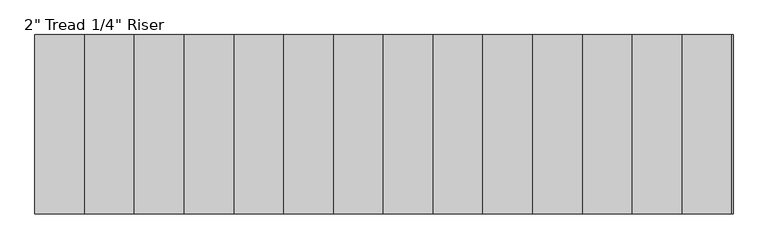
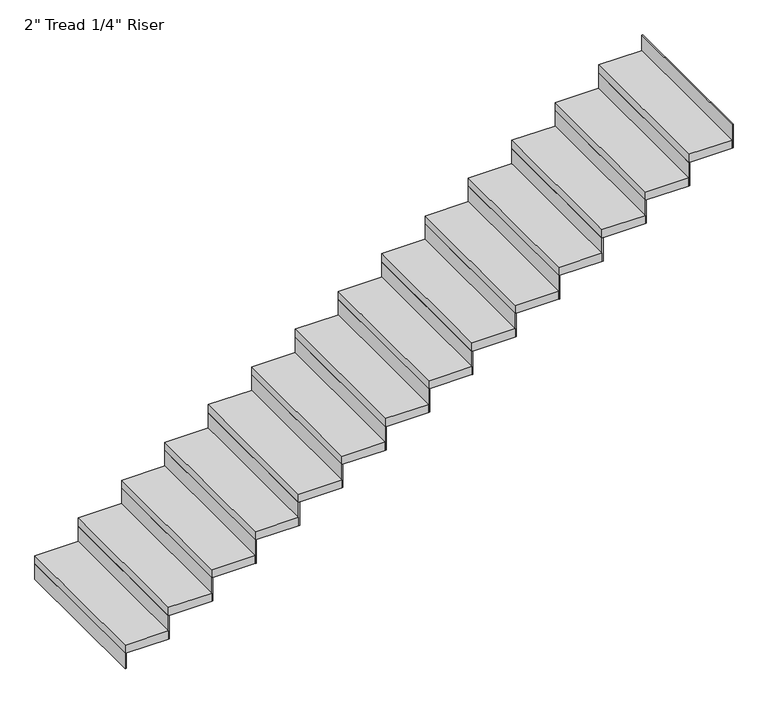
"""IFC4 building model written with IfcOpenShell, lengths in millimetres: stair flight geometry."""

from ifc_helpers import new_model, si_unit, frame, origin, origin_with_axes, place, context, project, spatial, polyline, outline, extrude, source, transform, mapped, element, save


def stair_flight_bfdabed0(model_context):
    return source(origin(), model_context, "Body", "SweptSolid", [
        extrude(outline(polyline([(12648.6660021, 21385.3361774), (12642.3160021, 21385.3361774), (12642.3160021, 22299.7361774), (12648.6660021, 22299.7361774), (12648.6660021, 21385.3361774)])), origin_with_axes(), (0.0, 0.0, 1.0), 94.3428571),
        extrude(outline(polyline([(12896.3160021, 22299.7361774), (12896.3160021, 21385.3361774), (12642.3160021, 21385.3361774), (12642.3160021, 22299.7361774), (12896.3160021, 22299.7361774)])), frame((0.0, 0.0, 94.3428571), z_axis=(0.0, 0.0, 1.0), x_axis=(1.0, 0.0, 0.0)), (0.0, 0.0, 1.0), 50.8),
        extrude(outline(polyline([(12902.6660021, 21385.3361774), (12896.3160021, 21385.3361774), (12896.3160021, 22299.7361774), (12902.6660021, 22299.7361774), (12902.6660021, 21385.3361774)])), frame((0.0, 0.0, 94.3428571), z_axis=(0.0, 0.0, 1.0), x_axis=(1.0, 0.0, 0.0)), (0.0, 0.0, 1.0), 145.1428571),
        extrude(outline(polyline([(13150.3160021, 22299.7361774), (13150.3160021, 21385.3361774), (12896.3160021, 21385.3361774), (12896.3160021, 22299.7361774), (13150.3160021, 22299.7361774)])), frame((0.0, 0.0, 239.4857143), z_axis=(0.0, 0.0, 1.0), x_axis=(1.0, 0.0, 0.0)), (0.0, 0.0, 1.0), 50.8),
        extrude(outline(polyline([(13156.6660021, 21385.3361774), (13150.3160021, 21385.3361774), (13150.3160021, 22299.7361774), (13156.6660021, 22299.7361774), (13156.6660021, 21385.3361774)])), frame((0.0, 0.0, 239.4857143), z_axis=(0.0, 0.0, 1.0), x_axis=(1.0, 0.0, 0.0)), (0.0, 0.0, 1.0), 145.1428571),
        extrude(outline(polyline([(13404.3160021, 22299.7361774), (13404.3160021, 21385.3361774), (13150.3160021, 21385.3361774), (13150.3160021, 22299.7361774), (13404.3160021, 22299.7361774)])), frame((0.0, 0.0, 384.6285714), z_axis=(0.0, 0.0, 1.0), x_axis=(1.0, 0.0, 0.0)), (0.0, 0.0, 1.0), 50.8),
        extrude(outline(polyline([(13410.6660021, 21385.3361774), (13404.3160021, 21385.3361774), (13404.3160021, 22299.7361774), (13410.6660021, 22299.7361774), (13410.6660021, 21385.3361774)])), frame((0.0, 0.0, 384.6285714), z_axis=(0.0, 0.0, 1.0), x_axis=(1.0, 0.0, 0.0)), (0.0, 0.0, 1.0), 145.1428571),
        extrude(outline(polyline([(13658.3160021, 22299.7361774), (13658.3160021, 21385.3361774), (13404.3160021, 21385.3361774), (13404.3160021, 22299.7361774), (13658.3160021, 22299.7361774)])), frame((0.0, 0.0, 529.7714286), z_axis=(0.0, 0.0, 1.0), x_axis=(1.0, 0.0, 0.0)), (0.0, 0.0, 1.0), 50.8),
        extrude(outline(polyline([(13664.6660021, 21385.3361774), (13658.3160021, 21385.3361774), (13658.3160021, 22299.7361774), (13664.6660021, 22299.7361774), (13664.6660021, 21385.3361774)])), frame((0.0, 0.0, 529.7714286), z_axis=(0.0, 0.0, 1.0), x_axis=(1.0, 0.0, 0.0)), (0.0, 0.0, 1.0), 145.1428571),
        extrude(outline(polyline([(13912.3160021, 22299.7361774), (13912.3160021, 21385.3361774), (13658.3160021, 21385.3361774), (13658.3160021, 22299.7361774), (13912.3160021, 22299.7361774)])), frame((0.0, 0.0, 674.9142857), z_axis=(0.0, 0.0, 1.0), x_axis=(1.0, 0.0, 0.0)), (0.0, 0.0, 1.0), 50.8),
        extrude(outline(polyline([(13918.6660021, 21385.3361774), (13912.3160021, 21385.3361774), (13912.3160021, 22299.7361774), (13918.6660021, 22299.7361774), (13918.6660021, 21385.3361774)])), frame((0.0, 0.0, 674.9142857), z_axis=(0.0, 0.0, 1.0), x_axis=(1.0, 0.0, 0.0)), (0.0, 0.0, 1.0), 145.1428571),
        extrude(outline(polyline([(14166.3160021, 22299.7361774), (14166.3160021, 21385.3361774), (13912.3160021, 21385.3361774), (13912.3160021, 22299.7361774), (14166.3160021, 22299.7361774)])), frame((0.0, 0.0, 820.0571429), z_axis=(0.0, 0.0, 1.0), x_axis=(1.0, 0.0, 0.0)), (0.0, 0.0, 1.0), 50.8),
        extrude(outline(polyline([(14172.6660021, 21385.3361774), (14166.3160021, 21385.3361774), (14166.3160021, 22299.7361774), (14172.6660021, 22299.7361774), (14172.6660021, 21385.3361774)])), frame((0.0, 0.0, 820.0571429), z_axis=(0.0, 0.0, 1.0), x_axis=(1.0, 0.0, 0.0)), (0.0, 0.0, 1.0), 145.1428571),
        extrude(outline(polyline([(14420.3160021, 22299.7361774), (14420.3160021, 21385.3361774), (14166.3160021, 21385.3361774), (14166.3160021, 22299.7361774), (14420.3160021, 22299.7361774)])), frame((0.0, 0.0, 965.2), z_axis=(0.0, 0.0, 1.0), x_axis=(1.0, 0.0, 0.0)), (0.0, 0.0, 1.0), 50.8),
        extrude(outline(polyline([(14426.6660021, 21385.3361774), (14420.3160021, 21385.3361774), (14420.3160021, 22299.7361774), (14426.6660021, 22299.7361774), (14426.6660021, 21385.3361774)])), frame((0.0, 0.0, 965.2), z_axis=(0.0, 0.0, 1.0), x_axis=(1.0, 0.0, 0.0)), (0.0, 0.0, 1.0), 145.1428571),
        extrude(outline(polyline([(14674.3160021, 22299.7361774), (14674.3160021, 21385.3361774), (14420.3160021, 21385.3361774), (14420.3160021, 22299.7361774), (14674.3160021, 22299.7361774)])), frame((0.0, 0.0, 1110.3428571), z_axis=(0.0, 0.0, 1.0), x_axis=(1.0, 0.0, 0.0)), (0.0, 0.0, 1.0), 50.8),
        extrude(outline(polyline([(14680.6660021, 21385.3361774), (14674.3160021, 21385.3361774), (14674.3160021, 22299.7361774), (14680.6660021, 22299.7361774), (14680.6660021, 21385.3361774)])), frame((0.0, 0.0, 1110.3428571), z_axis=(0.0, 0.0, 1.0), x_axis=(1.0, 0.0, 0.0)), (0.0, 0.0, 1.0), 145.1428571),
        extrude(outline(polyline([(14928.3160021, 22299.7361774), (14928.3160021, 21385.3361774), (14674.3160021, 21385.3361774), (14674.3160021, 22299.7361774), (14928.3160021, 22299.7361774)])), frame((0.0, 0.0, 1255.4857143), z_axis=(0.0, 0.0, 1.0), x_axis=(1.0, 0.0, 0.0)), (0.0, 0.0, 1.0), 50.8),
        extrude(outline(polyline([(14934.6660021, 21385.3361774), (14928.3160021, 21385.3361774), (14928.3160021, 22299.7361774), (14934.6660021, 22299.7361774), (14934.6660021, 21385.3361774)])), frame((0.0, 0.0, 1255.4857143), z_axis=(0.0, 0.0, 1.0), x_axis=(1.0, 0.0, 0.0)), (0.0, 0.0, 1.0), 145.1428571),
        extrude(outline(polyline([(15182.3160021, 22299.7361774), (15182.3160021, 21385.3361774), (14928.3160021, 21385.3361774), (14928.3160021, 22299.7361774), (15182.3160021, 22299.7361774)])), frame((0.0, 0.0, 1400.6285714), z_axis=(0.0, 0.0, 1.0), x_axis=(1.0, 0.0, 0.0)), (0.0, 0.0, 1.0), 50.8),
        extrude(outline(polyline([(15188.6660021, 21385.3361774), (15182.3160021, 21385.3361774), (15182.3160021, 22299.7361774), (15188.6660021, 22299.7361774), (15188.6660021, 21385.3361774)])), frame((0.0, 0.0, 1400.6285714), z_axis=(0.0, 0.0, 1.0), x_axis=(1.0, 0.0, 0.0)), (0.0, 0.0, 1.0), 145.1428571),
        extrude(outline(polyline([(15436.3160021, 22299.7361774), (15436.3160021, 21385.3361774), (15182.3160021, 21385.3361774), (15182.3160021, 22299.7361774), (15436.3160021, 22299.7361774)])), frame((0.0, 0.0, 1545.7714286), z_axis=(0.0, 0.0, 1.0), x_axis=(1.0, 0.0, 0.0)), (0.0, 0.0, 1.0), 50.8),
        extrude(outline(polyline([(15442.6660021, 21385.3361774), (15436.3160021, 21385.3361774), (15436.3160021, 22299.7361774), (15442.6660021, 22299.7361774), (15442.6660021, 21385.3361774)])), frame((0.0, 0.0, 1545.7714286), z_axis=(0.0, 0.0, 1.0), x_axis=(1.0, 0.0, 0.0)), (0.0, 0.0, 1.0), 145.1428571),
        extrude(outline(polyline([(15690.3160021, 22299.7361774), (15690.3160021, 21385.3361774), (15436.3160021, 21385.3361774), (15436.3160021, 22299.7361774), (15690.3160021, 22299.7361774)])), frame((0.0, 0.0, 1690.9142857), z_axis=(0.0, 0.0, 1.0), x_axis=(1.0, 0.0, 0.0)), (0.0, 0.0, 1.0), 50.8),
        extrude(outline(polyline([(15696.6660021, 21385.3361774), (15690.3160021, 21385.3361774), (15690.3160021, 22299.7361774), (15696.6660021, 22299.7361774), (15696.6660021, 21385.3361774)])), frame((0.0, 0.0, 1690.9142857), z_axis=(0.0, 0.0, 1.0), x_axis=(1.0, 0.0, 0.0)), (0.0, 0.0, 1.0), 145.1428571),
        extrude(outline(polyline([(15944.3160021, 22299.7361774), (15944.3160021, 21385.3361774), (15690.3160021, 21385.3361774), (15690.3160021, 22299.7361774), (15944.3160021, 22299.7361774)])), frame((0.0, 0.0, 1836.0571429), z_axis=(0.0, 0.0, 1.0), x_axis=(1.0, 0.0, 0.0)), (0.0, 0.0, 1.0), 50.8),
        extrude(outline(polyline([(15950.6660021, 21385.3361774), (15944.3160021, 21385.3361774), (15944.3160021, 22299.7361774), (15950.6660021, 22299.7361774), (15950.6660021, 21385.3361774)])), frame((0.0, 0.0, 1836.0571429), z_axis=(0.0, 0.0, 1.0), x_axis=(1.0, 0.0, 0.0)), (0.0, 0.0, 1.0), 145.1428571),
        extrude(outline(polyline([(16204.6660021, 21385.3361774), (16198.3160021, 21385.3361774), (16198.3160021, 22299.7361774), (16204.6660021, 22299.7361774), (16204.6660021, 21385.3361774)])), frame((0.0, 0.0, 1981.2), z_axis=(0.0, 0.0, 1.0), x_axis=(1.0, 0.0, 0.0)), (0.0, 0.0, 1.0), 145.1428571),
        extrude(outline(polyline([(16198.3160021, 22299.7361774), (16198.3160021, 21385.3361774), (15944.3160021, 21385.3361774), (15944.3160021, 22299.7361774), (16198.3160021, 22299.7361774)])), frame((0.0, 0.0, 1981.2), z_axis=(0.0, 0.0, 1.0), x_axis=(1.0, 0.0, 0.0)), (0.0, 0.0, 1.0), 50.8),
    ])


if __name__ == "__main__":
    model = new_model("IFC4")
    model_context = context("Model", 3, world=origin())
    ifc_project = project(units=[si_unit("LENGTHUNIT", "METRE", prefix="MILLI")], contexts=[model_context])
    site = spatial("IfcSite", under=ifc_project)
    building = spatial("IfcBuilding", under=site)
    placement = place(None, origin())
    stair_flight_shape = stair_flight_bfdabed0(model_context)
    element("IfcStairFlight", 1, ObjectType="2\" Tread 1/4\" Riser", at=placement, inside=building, context=model_context, shape_type="MappedRepresentation", body=[
        mapped(stair_flight_shape, transform((0.0, 0.0, 0.0), x_axis=(1.0, 0.0, 0.0), y_axis=(0.0, 1.0, 0.0), z_axis=(0.0, 0.0, 1.0))),
    ])
    save(model, "model.ifc")
